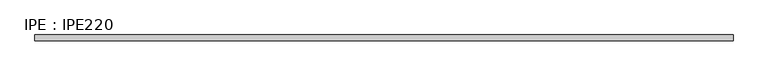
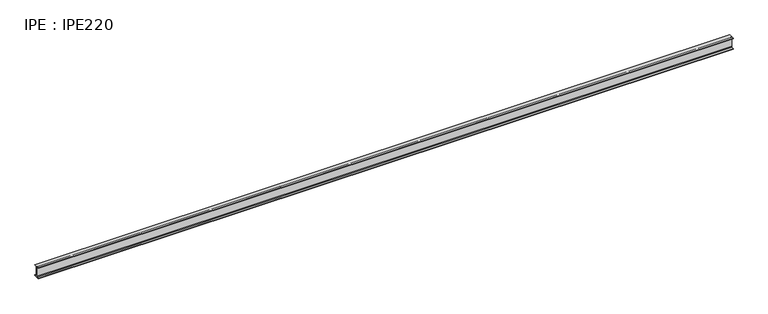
"""IFC4 building model written with IfcOpenShell, lengths in millimetres: beam geometry, IPE : IPE220."""

from ifc_helpers import new_model, si_unit, point, frame, frame_2d, origin, place, context, project, spatial, polyline, circle_curve, trimmed, segment, composite_curve, outline, extrude, source, transform, mapped, element, save


def ipe_ipe220_9e91c74c(model_context):
    return source(origin(), model_context, "Body", "SweptSolid", [
        extrude(outline(composite_curve([segment(polyline([(55.0, -100.8), (55.0, -110.0), (-55.0, -110.0), (-55.0, -100.8), (-14.95, -100.8)]), True, "CONTINUOUS"), segment(trimmed(circle_curve(frame_2d((-14.95, -88.8)), 12.0), [point((-14.95, -100.8))], [point((-2.95, -88.8))], True, "CARTESIAN"), True, "CONTINUOUS"), segment(polyline([(-2.95, -88.8), (-2.95, 88.8)]), True, "CONTINUOUS"), segment(trimmed(circle_curve(frame_2d((-14.95, 88.8)), 12.0), [point((-2.95, 88.8))], [point((-14.95, 100.8))], True, "CARTESIAN"), True, "CONTINUOUS"), segment(polyline([(-14.95, 100.8), (-55.0, 100.8), (-55.0, 110.0), (55.0, 110.0), (55.0, 100.8), (14.95, 100.8)]), True, "CONTINUOUS"), segment(trimmed(circle_curve(frame_2d((14.95, 88.8)), 12.0), [point((14.95, 100.8))], [point((2.95, 88.8))], True, "CARTESIAN"), True, "CONTINUOUS"), segment(polyline([(2.95, 88.8), (2.95, -88.8)]), True, "CONTINUOUS"), segment(trimmed(circle_curve(frame_2d((14.95, -88.8)), 12.0), [point((2.95, -88.8))], [point((14.95, -100.8))], True, "CARTESIAN"), True, "CONTINUOUS"), segment(polyline([(14.95, -100.8), (55.0, -100.8)]), True, "CONTINUOUS")], self_intersect=False)), frame((-6604.0, 0.0, 0.0), z_axis=(1.0, 0.0, 0.0), x_axis=(0.0, 1.0, 0.0)), (0.0, 0.0, 1.0), 13272.6),
    ])


if __name__ == "__main__":
    model = new_model("IFC4")
    model_context = context("Model", 3, world=origin())
    ifc_project = project(units=[si_unit("LENGTHUNIT", "METRE", prefix="MILLI")], contexts=[model_context])
    site = spatial("IfcSite", under=ifc_project)
    building = spatial("IfcBuilding", under=site)
    placement = place(None, origin())
    ipe_ipe220_shape = ipe_ipe220_9e91c74c(model_context)
    element("IfcBeam", 1, ObjectType="IPE : IPE220", at=placement, inside=building, context=model_context, shape_type="MappedRepresentation", body=[
        mapped(ipe_ipe220_shape, transform((0.0, 0.0, 0.0), x_axis=(1.0, 0.0, 0.0), y_axis=(0.0, 1.0, 0.0), z_axis=(0.0, 0.0, 1.0))),
    ])
    save(model, "model.ifc")
